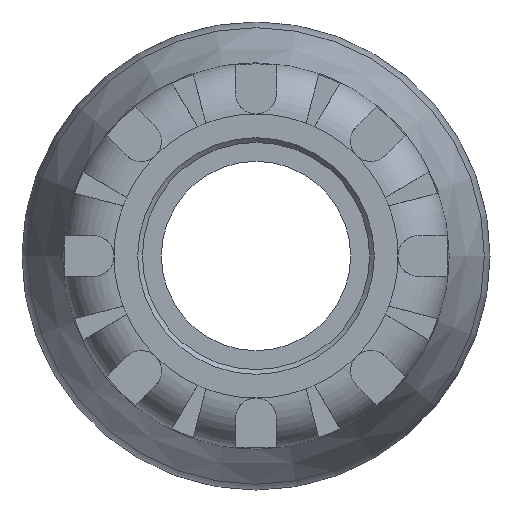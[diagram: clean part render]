
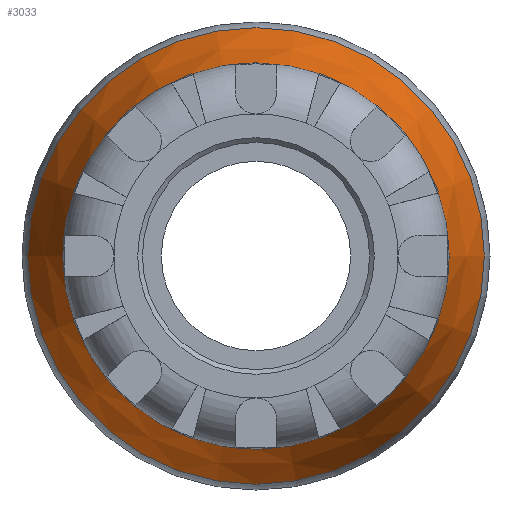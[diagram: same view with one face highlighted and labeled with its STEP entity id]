
A CAD part, left-side view. The second image highlights one B-rep face of the part: STEP entity #3033.
In plain terms, the highlighted conical face has half-angle 20 degrees and reference radius 46.35 mm.
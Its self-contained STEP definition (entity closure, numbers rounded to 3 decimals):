
#331=FACE_OUTER_BOUND('',#508,.T.);
#508=EDGE_LOOP('',(#2147,#2148,#2149,#2150,#2151,#2152,#2153,#2154));
#674=LINE('',#5030,#831);
#831=VECTOR('',#3859,46.35);
#1063=CIRCLE('',#3324,50.258);
#1064=CIRCLE('',#3325,50.258);
#1065=CIRCLE('',#3326,50.258);
#1067=CIRCLE('',#3329,42.442);
#1068=CIRCLE('',#3330,42.442);
#1069=CIRCLE('',#3331,42.442);
#1273=VERTEX_POINT('',#5020);
#1274=VERTEX_POINT('',#5022);
#1275=VERTEX_POINT('',#5024);
#1276=VERTEX_POINT('',#5029);
#1277=VERTEX_POINT('',#5031);
#1278=VERTEX_POINT('',#5033);
#1599=EDGE_CURVE('',#1273,#1274,#1063,.T.);
#1600=EDGE_CURVE('',#1274,#1275,#1064,.T.);
#1601=EDGE_CURVE('',#1275,#1273,#1065,.T.);
#1603=EDGE_CURVE('',#1274,#1276,#674,.T.);
#1604=EDGE_CURVE('',#1277,#1276,#1067,.T.);
#1605=EDGE_CURVE('',#1278,#1277,#1068,.T.);
#1606=EDGE_CURVE('',#1276,#1278,#1069,.T.);
#2147=ORIENTED_EDGE('',*,*,#1601,.F.);
#2148=ORIENTED_EDGE('',*,*,#1600,.F.);
#2149=ORIENTED_EDGE('',*,*,#1603,.T.);
#2150=ORIENTED_EDGE('',*,*,#1604,.F.);
#2151=ORIENTED_EDGE('',*,*,#1605,.F.);
#2152=ORIENTED_EDGE('',*,*,#1606,.F.);
#2153=ORIENTED_EDGE('',*,*,#1603,.F.);
#2154=ORIENTED_EDGE('',*,*,#1599,.F.);
#2858=CONICAL_SURFACE('',#3328,46.35,0.349);
#3033=ADVANCED_FACE('',(#331),#2858,.T.);
#3324=AXIS2_PLACEMENT_3D('',#5023,#3849,#3850);
#3325=AXIS2_PLACEMENT_3D('',#5025,#3851,#3852);
#3326=AXIS2_PLACEMENT_3D('',#5026,#3853,#3854);
#3328=AXIS2_PLACEMENT_3D('',#5028,#3857,#3858);
#3329=AXIS2_PLACEMENT_3D('',#5032,#3860,#3861);
#3330=AXIS2_PLACEMENT_3D('',#5034,#3862,#3863);
#3331=AXIS2_PLACEMENT_3D('',#5035,#3864,#3865);
#3849=DIRECTION('center_axis',(1.,0.,0.));
#3850=DIRECTION('ref_axis',(0.,-1.,0.));
#3851=DIRECTION('center_axis',(1.,0.,0.));
#3852=DIRECTION('ref_axis',(0.,-1.,0.));
#3853=DIRECTION('center_axis',(1.,0.,0.));
#3854=DIRECTION('ref_axis',(0.,-1.,0.));
#3857=DIRECTION('center_axis',(1.,0.,0.));
#3858=DIRECTION('ref_axis',(0.,1.,0.));
#3859=DIRECTION('',(-0.94,0.342,0.));
#3860=DIRECTION('center_axis',(-1.,0.,0.));
#3861=DIRECTION('ref_axis',(0.,-1.,0.));
#3862=DIRECTION('center_axis',(-1.,0.,0.));
#3863=DIRECTION('ref_axis',(0.,-1.,0.));
#3864=DIRECTION('center_axis',(-1.,0.,0.));
#3865=DIRECTION('ref_axis',(0.,-1.,0.));
#5020=CARTESIAN_POINT('',(54.267,0.,50.258));
#5022=CARTESIAN_POINT('',(54.267,-50.258,0.));
#5023=CARTESIAN_POINT('Origin',(54.267,0.,0.));
#5024=CARTESIAN_POINT('',(54.267,50.258,0.));
#5025=CARTESIAN_POINT('Origin',(54.267,0.,0.));
#5026=CARTESIAN_POINT('Origin',(54.267,0.,0.));
#5028=CARTESIAN_POINT('Origin',(43.53,0.,0.));
#5029=CARTESIAN_POINT('',(32.794,-42.442,0.));
#5030=CARTESIAN_POINT('',(43.53,-46.35,0.));
#5031=CARTESIAN_POINT('',(32.794,42.442,0.));
#5032=CARTESIAN_POINT('Origin',(32.794,0.,0.));
#5033=CARTESIAN_POINT('',(32.794,0.,42.442));
#5034=CARTESIAN_POINT('Origin',(32.794,0.,0.));
#5035=CARTESIAN_POINT('Origin',(32.794,0.,0.));
